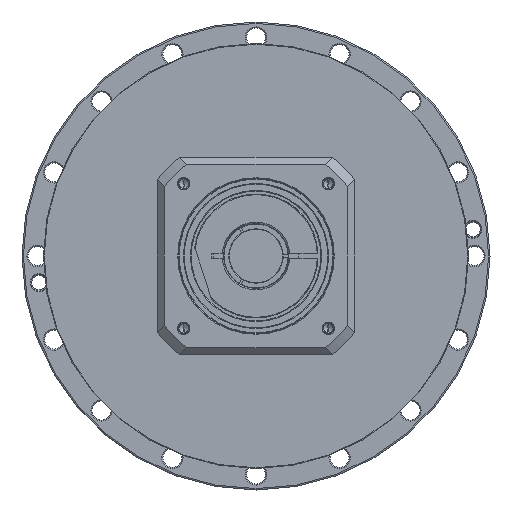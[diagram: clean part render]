
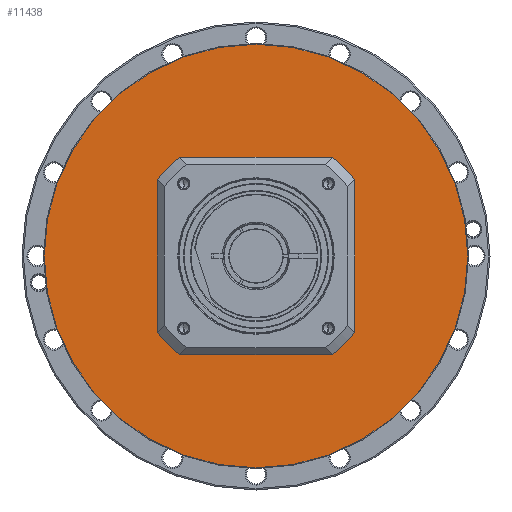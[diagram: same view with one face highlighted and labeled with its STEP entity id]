
A CAD part, left-side view. The second image highlights one B-rep face of the part: STEP entity #11438.
In plain terms, the highlighted planar face has unit normal (-1, 0, 0) as drawn and (1, 0, 0) by its records, which use the part's own axes.
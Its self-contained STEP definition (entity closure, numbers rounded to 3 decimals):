
#10469=CARTESIAN_POINT('',(-4.,0.,0.));
#10470=DIRECTION('',(-1.,0.,0.));
#10471=DIRECTION('',(0.,-1.,0.));
#10472=AXIS2_PLACEMENT_3D('',#10469,#10470,#10471);
#10474=CARTESIAN_POINT('',(-4.,0.,0.));
#10475=DIRECTION('',(-1.,0.,0.));
#10476=DIRECTION('',(0.,1.,0.));
#10477=AXIS2_PLACEMENT_3D('',#10474,#10475,#10476);
#10479=CARTESIAN_POINT('',(-4.,0.,0.));
#10480=DIRECTION('',(-1.,0.,0.));
#10481=DIRECTION('',(0.,-1.,0.));
#10482=AXIS2_PLACEMENT_3D('',#10479,#10480,#10481);
#10484=CARTESIAN_POINT('',(-4.,0.,0.));
#10485=DIRECTION('',(-1.,0.,0.));
#10486=DIRECTION('',(0.,1.,0.));
#10487=AXIS2_PLACEMENT_3D('',#10484,#10485,#10486);
#10717=CARTESIAN_POINT('',(-4.,-150.25,0.));
#10718=CARTESIAN_POINT('',(-4.,150.25,0.));
#10719=VERTEX_POINT('',#10717);
#10720=VERTEX_POINT('',#10718);
#10733=CARTESIAN_POINT('',(-4.,-70.,0.));
#10734=CARTESIAN_POINT('',(-4.,70.,0.));
#10735=VERTEX_POINT('',#10733);
#10736=VERTEX_POINT('',#10734);
#11423=CARTESIAN_POINT('',(-4.,0.,0.));
#11424=DIRECTION('',(1.,0.,0.));
#11425=DIRECTION('',(0.,-1.,0.));
#11426=AXIS2_PLACEMENT_3D('',#11423,#11424,#11425);
#11427=PLANE('',#11426);
#11428=ORIENTED_EDGE('',*,*,#11379,.T.);
#11429=ORIENTED_EDGE('',*,*,#11364,.T.);
#11430=EDGE_LOOP('',(#11428,#11429));
#11431=FACE_OUTER_BOUND('',#11430,.F.);
#11433=ORIENTED_EDGE('',*,*,#11432,.F.);
#11435=ORIENTED_EDGE('',*,*,#11434,.F.);
#11436=EDGE_LOOP('',(#11433,#11435));
#11437=FACE_BOUND('',#11436,.F.);
#11438=ADVANCED_FACE('',(#11431,#11437),#11427,.T.);
#10473=CIRCLE('',#10472,70.);
#10478=CIRCLE('',#10477,70.);
#10483=CIRCLE('',#10482,150.25);
#10488=CIRCLE('',#10487,150.25);
#11364=EDGE_CURVE('',#10720,#10719,#10488,.T.);
#11379=EDGE_CURVE('',#10719,#10720,#10483,.T.);
#11432=EDGE_CURVE('',#10735,#10736,#10473,.T.);
#11434=EDGE_CURVE('',#10736,#10735,#10478,.T.);
